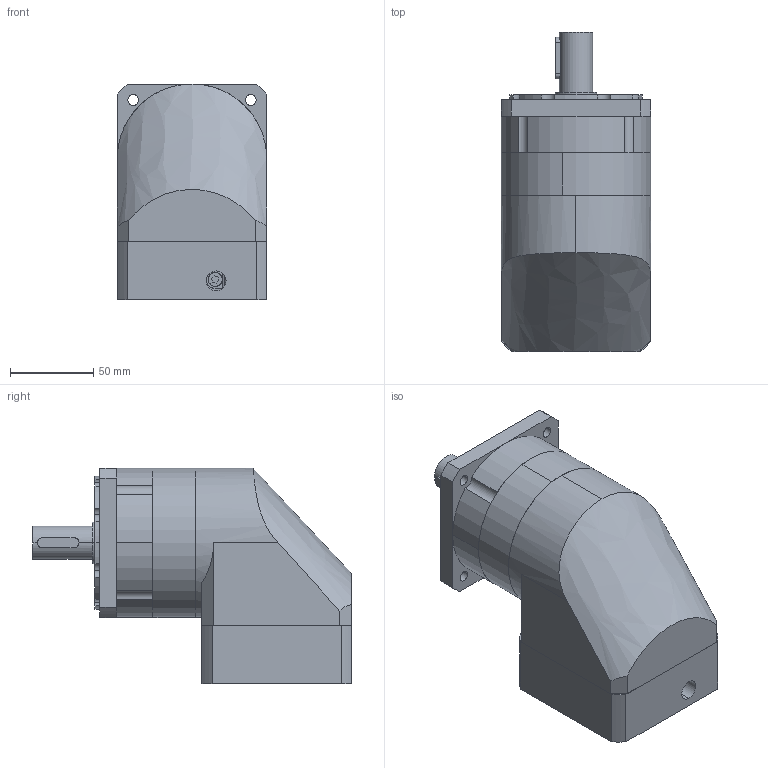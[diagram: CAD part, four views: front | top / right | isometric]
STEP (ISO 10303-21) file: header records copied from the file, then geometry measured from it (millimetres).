
FILE_DESCRIPTION (( 'STEP AP203' ), '1' );
FILE_NAME ('PVFA090-L1-14-73-98.4.STEP', '2022-07-27T03:29:42', ( 'Windows User' ), ( 'P R C' ), 'SwSTEP 2.0', 'SolidWorks 2016', '' );
FILE_SCHEMA (( 'CONFIG_CONTROL_DESIGN' ));
Length unit declared in the file: millimetre
Products named in the file (9): 邧埴瑩 6x6x25; PVFA090-L1-14-73-98.4; PVFA090 眊极_揤翉; PVFA090 κｳﾝﾈｦ-ﾓﾅｻｯ_ﾒｻｼｶﾄﾚｳﾝﾈｦ; PVFA090 奻屳唳_梓袧; PVFA090-蟀諉啣-73-M5-98.4; PVFA090-薊粣ん-14; M5 x 20; 粣創-3206A 30x62x23.8_2
Assembly tree (8 placements, depth 2):
  PVFA090-L1-14-73-98.4
    PVFA090 眊极_揤翉
    PVFA090 κｳﾝﾈｦ-ﾓﾅｻｯ_ﾒｻｼｶﾄﾚｳﾝﾈｦ
    PVFA090 奻屳唳_梓袧
    PVFA090-蟀諉啣-73-M5-98.4
    PVFA090-薊粣ん-14
    M5 x 20
    粣創-3206A 30x62x23.8_2
    邧埴瑩 6x6x25
Bounding box: 90 x 192 x 130 mm (x, y, z)
Volume: 1118519 mm3; surface area: 190523.6 mm2
Topology: 13 solids, 13 shells, 1187 faces, 3431 edges, 2212 vertices
Faces by surface type: plane 628, bspline 297, cylinder 232, cone 30
Entity records: 50103 total; most frequent: CARTESIAN_POINT 20054, ORIENTED_EDGE 6630, DIRECTION 5176, EDGE_CURVE 3315, VERTEX_POINT 2212, VECTOR 1888, LINE 1888, AXIS2_PLACEMENT_3D 1644
